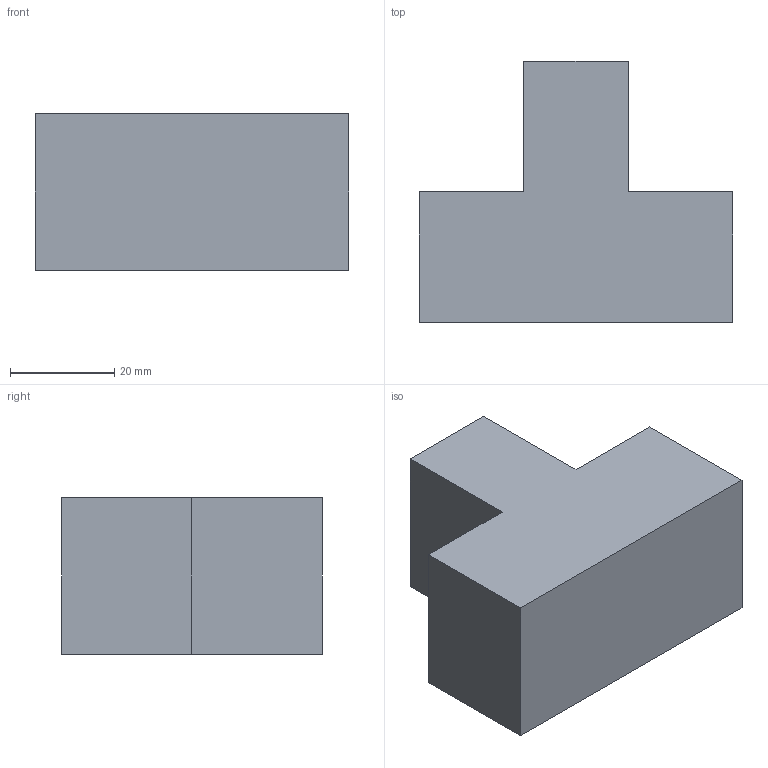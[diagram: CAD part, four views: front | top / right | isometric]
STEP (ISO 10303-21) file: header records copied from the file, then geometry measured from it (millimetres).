
FILE_DESCRIPTION(/* description */ (''),/* implementation_level */ '2;1');
FILE_NAME(/* name */ 'E:\OneDrive\Desktop\N5_GC_Orthographic\3D CAD Models\Task_1.stp',/* time_stamp */ '2020-06-09T12:48:59+01:00',/* author */ ('hunte'),/* organization */ (''),/* preprocessor_version */ 'ST-DEVELOPER v18.1',/* originating_system */ 'Autodesk Inventor 2020',/* authorisation */ '');
FILE_SCHEMA (('AUTOMOTIVE_DESIGN { 1 0 10303 214 3 1 1 }'));
Length unit declared in the file: millimetre
Products named in the file (1): Task_1
Bounding box: 60 x 50 x 30 mm (x, y, z)
Volume: 60000 mm3; surface area: 10600 mm2
Topology: 1 solids, 1 shells, 10 faces, 24 edges, 16 vertices
Faces by surface type: plane 10
Entity records: 329 total; most frequent: CARTESIAN_POINT 51, ORIENTED_EDGE 48, DIRECTION 46, LINE 24, VECTOR 24, EDGE_CURVE 24, VERTEX_POINT 16, AXIS2_PLACEMENT_3D 11
